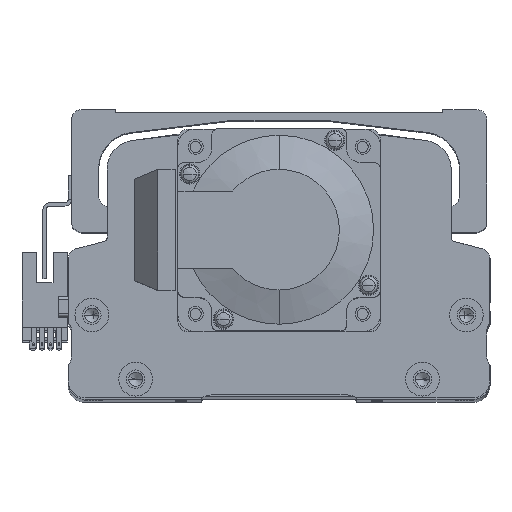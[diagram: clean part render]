
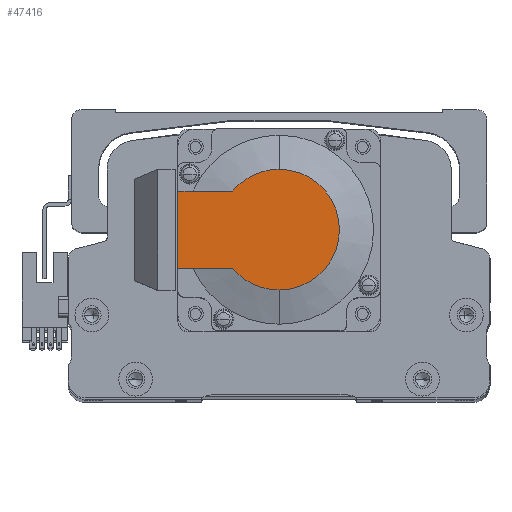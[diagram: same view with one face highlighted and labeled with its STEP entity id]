
A CAD part, top view. The second image highlights one B-rep face of the part: STEP entity #47416.
In plain terms, the highlighted planar face has unit normal (0, 0, 1) as drawn and (-1, 0, 0) by its records, which use the part's own axes.
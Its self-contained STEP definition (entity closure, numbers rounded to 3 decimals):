
#869 = CIRCLE ( 'NONE', #22617, 17.881 ) ;
#1102 = DIRECTION ( 'NONE',  ( 0., -1., 0. ) ) ;
#1418 = ORIENTED_EDGE ( 'NONE', *, *, #56458, .T. ) ;
#4158 = CARTESIAN_POINT ( 'NONE',  ( -118.5, 30., -11.45 ) ) ;
#5393 = CARTESIAN_POINT ( 'NONE',  ( -118.5, -8.941, 0. ) ) ;
#5659 = DIRECTION ( 'NONE',  ( -1., 0., 0. ) ) ;
#5671 = CARTESIAN_POINT ( 'NONE',  ( -118.5, -8.941, -11.45 ) ) ;
#5823 = EDGE_LOOP ( 'NONE', ( #53594, #49682, #1418, #47254, #51504, #48443 ) ) ;
#7432 = EDGE_CURVE ( 'NONE', #40550, #47809, #20796, .T. ) ;
#9421 = PLANE ( 'NONE',  #42792 ) ;
#9790 = DIRECTION ( 'NONE',  ( 0., 0., 1. ) ) ;
#9800 = CARTESIAN_POINT ( 'NONE',  ( -118.5, 13.735, -11.45 ) ) ;
#12294 = VECTOR ( 'NONE', #25530, 1000. ) ;
#12726 = CARTESIAN_POINT ( 'NONE',  ( -118.5, 30., 11.45 ) ) ;
#12921 = DIRECTION ( 'NONE',  ( 0., -1., 0. ) ) ;
#17064 = CARTESIAN_POINT ( 'NONE',  ( -118.5, 13.735, 11.45 ) ) ;
#17870 = LINE ( 'NONE', #39112, #41129 ) ;
#18630 = DIRECTION ( 'NONE',  ( -1., 0., 0. ) ) ;
#19482 = VERTEX_POINT ( 'NONE', #49581 ) ;
#20796 = CIRCLE ( 'NONE', #43777, 17.881 ) ;
#20902 = EDGE_CURVE ( 'NONE', #31281, #47809, #17870, .T. ) ;
#21858 = VERTEX_POINT ( 'NONE', #4158 ) ;
#22617 = AXIS2_PLACEMENT_3D ( 'NONE', #51993, #25930, #56418 ) ;
#23006 = LINE ( 'NONE', #5671, #44826 ) ;
#23885 = CIRCLE ( 'NONE', #30971, 17.881 ) ;
#23993 = LINE ( 'NONE', #56020, #12294 ) ;
#25530 = DIRECTION ( 'NONE',  ( 0., 0., 1. ) ) ;
#25930 = DIRECTION ( 'NONE',  ( -1., 0., 0. ) ) ;
#30971 = AXIS2_PLACEMENT_3D ( 'NONE', #44792, #18630, #49201 ) ;
#31281 = VERTEX_POINT ( 'NONE', #12726 ) ;
#31789 = EDGE_CURVE ( 'NONE', #51939, #19482, #869, .T. ) ;
#31935 = CARTESIAN_POINT ( 'NONE',  ( -118.5, 0., 0. ) ) ;
#33000 = EDGE_CURVE ( 'NONE', #21858, #31281, #23993, .T. ) ;
#36061 = DIRECTION ( 'NONE',  ( -1., 0., 0. ) ) ;
#36308 = DIRECTION ( 'NONE',  ( 0., 0., -1. ) ) ;
#39112 = CARTESIAN_POINT ( 'NONE',  ( -118.5, 0., 11.45 ) ) ;
#40377 = FACE_OUTER_BOUND ( 'NONE', #5823, .T. ) ;
#40550 = VERTEX_POINT ( 'NONE', #50090 ) ;
#41129 = VECTOR ( 'NONE', #12921, 1000. ) ;
#42651 = EDGE_CURVE ( 'NONE', #21858, #51939, #23006, .T. ) ;
#42792 = AXIS2_PLACEMENT_3D ( 'NONE', #5393, #36061, #9790 ) ;
#43777 = AXIS2_PLACEMENT_3D ( 'NONE', #31935, #5659, #36308 ) ;
#44792 = CARTESIAN_POINT ( 'NONE',  ( -118.5, 0., 0. ) ) ;
#44826 = VECTOR ( 'NONE', #1102, 1000. ) ;
#47254 = ORIENTED_EDGE ( 'NONE', *, *, #7432, .T. ) ;
#47416 = ADVANCED_FACE ( 'NONE', ( #40377 ), #9421, .T. ) ;
#47809 = VERTEX_POINT ( 'NONE', #17064 ) ;
#48443 = ORIENTED_EDGE ( 'NONE', *, *, #33000, .F. ) ;
#49201 = DIRECTION ( 'NONE',  ( 0., 0., -1. ) ) ;
#49581 = CARTESIAN_POINT ( 'NONE',  ( -118.5, 0., -17.881 ) ) ;
#49682 = ORIENTED_EDGE ( 'NONE', *, *, #31789, .T. ) ;
#50090 = CARTESIAN_POINT ( 'NONE',  ( -118.5, 0., 17.881 ) ) ;
#51504 = ORIENTED_EDGE ( 'NONE', *, *, #20902, .F. ) ;
#51939 = VERTEX_POINT ( 'NONE', #9800 ) ;
#51993 = CARTESIAN_POINT ( 'NONE',  ( -118.5, 0., 0. ) ) ;
#53594 = ORIENTED_EDGE ( 'NONE', *, *, #42651, .T. ) ;
#56020 = CARTESIAN_POINT ( 'NONE',  ( -118.5, 30., 25. ) ) ;
#56418 = DIRECTION ( 'NONE',  ( 0., 0., -1. ) ) ;
#56458 = EDGE_CURVE ( 'NONE', #19482, #40550, #23885, .T. ) ;
